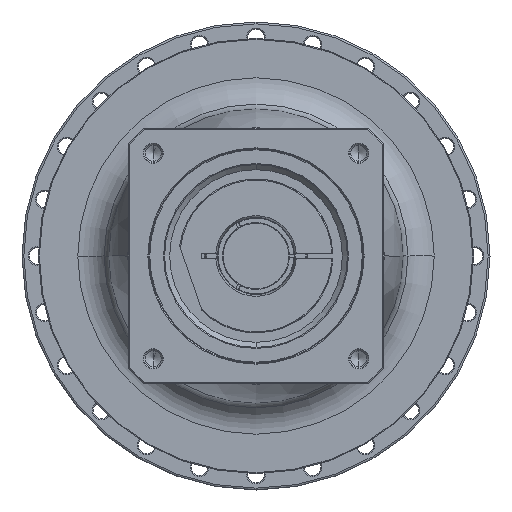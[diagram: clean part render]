
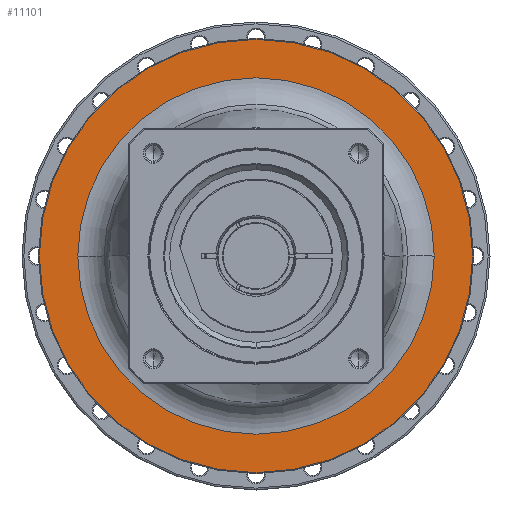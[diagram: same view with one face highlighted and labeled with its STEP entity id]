
A CAD part, left-side view. The second image highlights one B-rep face of the part: STEP entity #11101.
In plain terms, the highlighted planar face has unit normal (-1, 0, 0) as drawn and (1, 0, 0) by its records, which use the part's own axes.
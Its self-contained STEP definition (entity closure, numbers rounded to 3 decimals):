
#10604=CARTESIAN_POINT('',(-71.,0.,0.));
#10605=DIRECTION('',(-1.,0.,0.));
#10606=DIRECTION('',(0.,1.,0.));
#10607=AXIS2_PLACEMENT_3D('',#10604,#10605,#10606);
#10619=CARTESIAN_POINT('',(-71.,0.,0.));
#10620=DIRECTION('',(1.,0.,0.));
#10621=DIRECTION('',(0.,1.,0.));
#10622=AXIS2_PLACEMENT_3D('',#10619,#10620,#10621);
#10624=CARTESIAN_POINT('',(-71.,0.,0.));
#10625=DIRECTION('',(-1.,0.,0.));
#10626=DIRECTION('',(0.,-1.,0.));
#10627=AXIS2_PLACEMENT_3D('',#10624,#10625,#10626);
#10629=CARTESIAN_POINT('',(-71.,0.,0.));
#10630=DIRECTION('',(-1.,0.,0.));
#10631=DIRECTION('',(0.,1.,0.));
#10632=AXIS2_PLACEMENT_3D('',#10629,#10630,#10631);
#10754=CARTESIAN_POINT('',(-71.,-115.5,0.));
#10755=CARTESIAN_POINT('',(-71.,115.5,0.));
#10756=VERTEX_POINT('',#10754);
#10757=VERTEX_POINT('',#10755);
#10778=CARTESIAN_POINT('',(-71.,95.,0.));
#10779=CARTESIAN_POINT('',(-71.,-95.,0.));
#10780=VERTEX_POINT('',#10778);
#10781=VERTEX_POINT('',#10779);
#11086=CARTESIAN_POINT('',(-71.,0.,0.));
#11087=DIRECTION('',(1.,0.,0.));
#11088=DIRECTION('',(0.,-1.,0.));
#11089=AXIS2_PLACEMENT_3D('',#11086,#11087,#11088);
#11090=PLANE('',#11089);
#11092=ORIENTED_EDGE('',*,*,#11091,.T.);
#11094=ORIENTED_EDGE('',*,*,#11093,.T.);
#11095=EDGE_LOOP('',(#11092,#11094));
#11096=FACE_OUTER_BOUND('',#11095,.F.);
#11097=ORIENTED_EDGE('',*,*,#11080,.T.);
#11098=ORIENTED_EDGE('',*,*,#11066,.F.);
#11099=EDGE_LOOP('',(#11097,#11098));
#11100=FACE_BOUND('',#11099,.F.);
#11101=ADVANCED_FACE('',(#11096,#11100),#11090,.T.);
#10608=CIRCLE('',#10607,95.);
#10623=CIRCLE('',#10622,95.);
#10628=CIRCLE('',#10627,115.5);
#10633=CIRCLE('',#10632,115.5);
#11066=EDGE_CURVE('',#10780,#10781,#10608,.T.);
#11080=EDGE_CURVE('',#10780,#10781,#10623,.T.);
#11091=EDGE_CURVE('',#10756,#10757,#10628,.T.);
#11093=EDGE_CURVE('',#10757,#10756,#10633,.T.);
